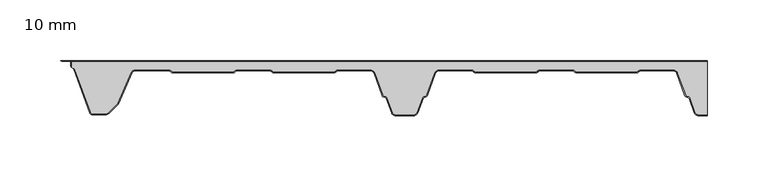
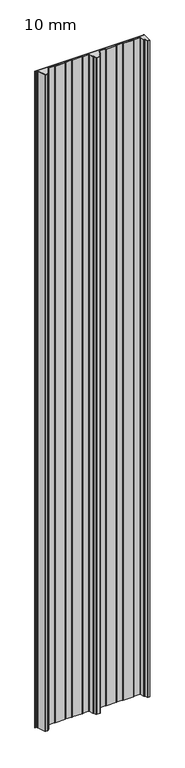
"""IFC4 building model written with IfcOpenShell, lengths in millimetres: plate geometry, HIANSA PANEL - H20.F01.011-PANELES DE CUBIERTA SIN TAPAJUNTA - EASY BOARD 5GR - Panel de Muro Cortina : 10 mm."""

from ifc_helpers import new_model, si_unit, point, frame_2d, origin, origin_with_axes, place, context, project, spatial, polyline, circle_curve, trimmed, segment, composite_curve, outline, extrude, source, transform, mapped, element, save


def plate_10_mm_efb9fa4d(model_context):
    return source(origin(), model_context, "Body", "SweptSolid", [
        extrude(outline(polyline([(-275.2694229, 40.0367133), (-275.7447446, 40.8599946), (-275.7447446, 44.1767187), (-275.2694229, 45.0), (-275.2694229, 40.0367133)])), origin_with_axes(), (0.0, 0.0, 1.0), 3390.8509027),
        extrude(outline(composite_curve([segment(polyline([(-273.4018492, 38.705703), (-272.7092629, 38.2647399), (-259.7811166, 2.7449496)]), True, "CONTINUOUS"), segment(trimmed(circle_curve(frame_2d((-257.431885, 3.6)), 2.5), [point((-259.7811166, 2.7449496))], [point((-257.431885, 1.1))], True, "CARTESIAN"), True, "CONTINUOUS"), segment(polyline([(-257.431885, 1.1), (-247.447117, 1.1)]), True, "CONTINUOUS"), segment(trimmed(circle_curve(frame_2d((-247.447117, 5.6)), 4.5), [point((-247.447117, 1.1))], [point((-244.2651365, 2.4180195))], True, "CARTESIAN"), True, "CONTINUOUS"), segment(polyline([(-244.2651365, 2.4180195), (-237.5783555, 9.1048005)]), True, "CONTINUOUS"), segment(trimmed(circle_curve(frame_2d((-240.7603361, 12.286781)), 4.5), [point((-237.5783555, 9.1048005))], [point((-236.6314448, 10.4972958))], True, "CARTESIAN"), True, "CONTINUOUS"), segment(polyline([(-236.6314448, 10.4972958), (-225.8420142, 35.3918218)]), True, "CONTINUOUS"), segment(trimmed(circle_curve(frame_2d((-222.6306543, 34.0)), 3.5), [point((-225.8420142, 35.3918218))], [point((-222.6306543, 37.5))], False, "CARTESIAN"), True, "CONTINUOUS"), segment(polyline([(-222.6306543, 37.5), (-194.7657414, 37.5)]), True, "CONTINUOUS"), segment(trimmed(circle_curve(frame_2d((-194.7657414, 35.0)), 2.5), [point((-194.7657414, 37.5))], [point((-193.2082608, 36.95557))], False, "CARTESIAN"), True, "CONTINUOUS"), segment(polyline([(-193.2082608, 36.95557), (-192.5534596, 36.3347606)]), True, "CONTINUOUS"), segment(trimmed(circle_curve(frame_2d((-191.6088872, 37.5)), 1.5), [point((-192.5534596, 36.3347606))], [point((-191.6088872, 36.0))], True, "CARTESIAN"), True, "CONTINUOUS"), segment(polyline([(-191.6088872, 36.0), (-141.6076538, 36.0)]), True, "CONTINUOUS"), segment(trimmed(circle_curve(frame_2d((-141.6076538, 37.5)), 1.5), [point((-141.6076538, 36.0))], [point((-140.6630813, 36.3347606))], True, "CARTESIAN"), True, "CONTINUOUS"), segment(polyline([(-140.6630813, 36.3347606), (-140.0082802, 36.95557)]), True, "CONTINUOUS"), segment(trimmed(circle_curve(frame_2d((-138.4507995, 35.0)), 2.5), [point((-140.0082802, 36.95557))], [point((-138.4507995, 37.5))], False, "CARTESIAN"), True, "CONTINUOUS"), segment(polyline([(-138.4507995, 37.5), (-111.4324081, 37.5)]), True, "CONTINUOUS"), segment(trimmed(circle_curve(frame_2d((-111.4324081, 35.0)), 2.5), [point((-111.4324081, 37.5))], [point((-109.8749275, 36.95557))], False, "CARTESIAN"), True, "CONTINUOUS"), segment(polyline([(-109.8749275, 36.95557), (-109.2201263, 36.3347606)]), True, "CONTINUOUS"), segment(trimmed(circle_curve(frame_2d((-108.2755538, 37.5)), 1.5), [point((-109.2201263, 36.3347606))], [point((-108.2755538, 36.0))], True, "CARTESIAN"), True, "CONTINUOUS"), segment(polyline([(-108.2755538, 36.0), (-58.2743205, 36.0)]), True, "CONTINUOUS"), segment(trimmed(circle_curve(frame_2d((-58.2743205, 37.5)), 1.5), [point((-58.2743205, 36.0))], [point((-57.329748, 36.3347606))], True, "CARTESIAN"), True, "CONTINUOUS"), segment(polyline([(-57.329748, 36.3347606), (-56.6749468, 36.95557)]), True, "CONTINUOUS"), segment(trimmed(circle_curve(frame_2d((-55.1174662, 35.0)), 2.5), [point((-56.6749468, 36.95557))], [point((-55.1174662, 37.5))], False, "CARTESIAN"), True, "CONTINUOUS"), segment(polyline([(-55.1174662, 37.5), (-28.1575131, 37.5)]), True, "CONTINUOUS"), segment(trimmed(circle_curve(frame_2d((-28.1575131, 34.0)), 3.5), [point((-28.1575131, 37.5))], [point((-24.868589, 35.1970706))], False, "CARTESIAN"), True, "CONTINUOUS"), segment(polyline([(-24.868589, 35.1970706), (-18.1503603, 16.7388909)]), True, "CONTINUOUS"), segment(trimmed(circle_curve(frame_2d((-17.1166984, 17.1151131)), 1.1), [point((-18.1503603, 16.7388909))], [point((-17.4929206, 16.0814512))], True, "CARTESIAN"), True, "CONTINUOUS"), segment(polyline([(-17.4929206, 16.0814512), (-15.6468567, 15.4095389)]), True, "CONTINUOUS"), segment(trimmed(circle_curve(frame_2d((-16.1598869, 14.0)), 1.5), [point((-15.6468567, 15.4095389))], [point((-14.750348, 14.5130302))], False, "CARTESIAN"), True, "CONTINUOUS"), segment(polyline([(-14.750348, 14.5130302), (-10.3924259, 2.5397376)]), True, "CONTINUOUS"), segment(trimmed(circle_curve(frame_2d((-7.4793787, 3.6)), 3.1), [point((-10.3924259, 2.5397376))], [point((-7.4793787, 0.5))], True, "CARTESIAN"), True, "CONTINUOUS"), segment(polyline([(-7.4793787, 0.5), (7.479295, 0.5)]), True, "CONTINUOUS"), segment(trimmed(circle_curve(frame_2d((7.479295, 3.6)), 3.1), [point((7.479295, 0.5))], [point((10.3923421, 2.5397376))], True, "CARTESIAN"), True, "CONTINUOUS"), segment(polyline([(10.3923421, 2.5397376), (14.7502643, 14.5130302)]), True, "CONTINUOUS"), segment(trimmed(circle_curve(frame_2d((16.1598032, 14.0)), 1.5), [point((14.7502643, 14.5130302))], [point((15.646773, 15.4095389))], False, "CARTESIAN"), True, "CONTINUOUS"), segment(polyline([(15.646773, 15.4095389), (17.4928368, 16.0814512)]), True, "CONTINUOUS"), segment(trimmed(circle_curve(frame_2d((17.1166147, 17.1151131)), 1.1), [point((17.4928368, 16.0814512))], [point((18.1502766, 16.7388909))], True, "CARTESIAN"), True, "CONTINUOUS"), segment(polyline([(18.1502766, 16.7388909), (24.8685053, 35.1970706)]), True, "CONTINUOUS"), segment(trimmed(circle_curve(frame_2d((28.1574294, 34.0)), 3.5), [point((24.8685053, 35.1970706))], [point((28.1574294, 37.5))], False, "CARTESIAN"), True, "CONTINUOUS"), segment(polyline([(28.1574294, 37.5), (55.2342586, 37.5)]), True, "CONTINUOUS"), segment(trimmed(circle_curve(frame_2d((55.2342586, 35.0)), 2.5), [point((55.2342586, 37.5))], [point((56.7917392, 36.95557))], False, "CARTESIAN"), True, "CONTINUOUS"), segment(polyline([(56.7917392, 36.95557), (57.4465404, 36.3347606)]), True, "CONTINUOUS"), segment(trimmed(circle_curve(frame_2d((58.3911128, 37.5)), 1.5), [point((57.4465404, 36.3347606))], [point((58.3911128, 36.0))], True, "CARTESIAN"), True, "CONTINUOUS"), segment(polyline([(58.3911128, 36.0), (108.3923462, 36.0)]), True, "CONTINUOUS"), segment(trimmed(circle_curve(frame_2d((108.3923462, 37.5)), 1.5), [point((108.3923462, 36.0))], [point((109.3369187, 36.3347606))], True, "CARTESIAN"), True, "CONTINUOUS"), segment(polyline([(109.3369187, 36.3347606), (109.9917198, 36.95557)]), True, "CONTINUOUS"), segment(trimmed(circle_curve(frame_2d((111.5492005, 35.0)), 2.5), [point((109.9917198, 36.95557))], [point((111.5492005, 37.5))], False, "CARTESIAN"), True, "CONTINUOUS"), segment(polyline([(111.5492005, 37.5), (138.5675919, 37.5)]), True, "CONTINUOUS"), segment(trimmed(circle_curve(frame_2d((138.5675919, 35.0)), 2.5), [point((138.5675919, 37.5))], [point((140.1250725, 36.95557))], False, "CARTESIAN"), True, "CONTINUOUS"), segment(polyline([(140.1250725, 36.95557), (140.7798737, 36.3347606)]), True, "CONTINUOUS"), segment(trimmed(circle_curve(frame_2d((141.7244462, 37.5)), 1.5), [point((140.7798737, 36.3347606))], [point((141.7244462, 36.0))], True, "CARTESIAN"), True, "CONTINUOUS"), segment(polyline([(141.7244462, 36.0), (191.7256795, 36.0)]), True, "CONTINUOUS"), segment(trimmed(circle_curve(frame_2d((191.7256795, 37.5)), 1.5), [point((191.7256795, 36.0))], [point((192.670252, 36.3347606))], True, "CARTESIAN"), True, "CONTINUOUS"), segment(polyline([(192.670252, 36.3347606), (193.3250532, 36.95557)]), True, "CONTINUOUS"), segment(trimmed(circle_curve(frame_2d((194.8825338, 35.0)), 2.5), [point((193.3250532, 36.95557))], [point((194.8825338, 37.5))], False, "CARTESIAN"), True, "CONTINUOUS"), segment(polyline([(194.8825338, 37.5), (221.9009249, 37.5)]), True, "CONTINUOUS"), segment(trimmed(circle_curve(frame_2d((221.9009249, 34.0)), 3.5), [point((221.9009249, 37.5))], [point((225.189849, 35.1970706))], False, "CARTESIAN"), True, "CONTINUOUS"), segment(polyline([(225.189849, 35.1970706), (231.9080778, 16.7388909)]), True, "CONTINUOUS"), segment(trimmed(circle_curve(frame_2d((232.9417396, 17.1151131)), 1.1), [point((231.9080778, 16.7388909))], [point((232.5655175, 16.0814512))], True, "CARTESIAN"), True, "CONTINUOUS"), segment(polyline([(232.5655175, 16.0814512), (234.4115813, 15.4095389)]), True, "CONTINUOUS"), segment(trimmed(circle_curve(frame_2d((233.8985511, 14.0)), 1.5), [point((234.4115813, 15.4095389))], [point((235.30809, 14.5130302))], False, "CARTESIAN"), True, "CONTINUOUS"), segment(polyline([(235.30809, 14.5130302), (239.6660122, 2.5397376)]), True, "CONTINUOUS"), segment(trimmed(circle_curve(frame_2d((242.5790593, 3.6)), 3.1), [point((239.6660122, 2.5397376))], [point((242.5790593, 0.5))], True, "CARTESIAN"), True, "CONTINUOUS"), segment(polyline([(242.5790593, 0.5), (249.9999998, 0.5), (249.9999998, 0.0), (242.5790593, 0.0)]), True, "CONTINUOUS"), segment(trimmed(circle_curve(frame_2d((242.5790593, 3.6)), 3.6), [point((242.5790593, 0.0))], [point((239.1961659, 2.3687275))], False, "CARTESIAN"), True, "CONTINUOUS"), segment(polyline([(239.1961659, 2.3687275), (234.8382437, 14.3420201)]), True, "CONTINUOUS"), segment(trimmed(circle_curve(frame_2d((233.8985511, 14.0)), 1.0), [point((234.8382437, 14.3420201))], [point((234.2405712, 14.9396926))], True, "CARTESIAN"), True, "CONTINUOUS"), segment(polyline([(234.2405712, 14.9396926), (232.3945074, 15.6116049)]), True, "CONTINUOUS"), segment(trimmed(circle_curve(frame_2d((232.9417396, 17.1151131)), 1.6), [point((232.3945074, 15.6116049))], [point((231.4382315, 16.5678808))], False, "CARTESIAN"), True, "CONTINUOUS"), segment(polyline([(231.4382315, 16.5678808), (224.7200027, 35.0260605)]), True, "CONTINUOUS"), segment(trimmed(circle_curve(frame_2d((221.9009249, 34.0)), 3.0), [point((224.7200027, 35.0260605))], [point((221.9009249, 37.0))], True, "CARTESIAN"), True, "CONTINUOUS"), segment(polyline([(221.9009249, 37.0), (194.8825338, 37.0)]), True, "CONTINUOUS"), segment(trimmed(circle_curve(frame_2d((194.8825338, 35.0)), 2.0), [point((194.8825338, 37.0))], [point((193.6525419, 36.5770606))], True, "CARTESIAN"), True, "CONTINUOUS"), segment(polyline([(193.6525419, 36.5770606), (193.001194, 35.9595251)]), True, "CONTINUOUS"), segment(trimmed(circle_curve(frame_2d((191.7256795, 37.5)), 2.0), [point((193.001194, 35.9595251))], [point((191.7256795, 35.5))], False, "CARTESIAN"), True, "CONTINUOUS"), segment(polyline([(191.7256795, 35.5), (141.7244462, 35.5)]), True, "CONTINUOUS"), segment(trimmed(circle_curve(frame_2d((141.7244462, 37.5)), 2.0), [point((141.7244462, 35.5))], [point((140.4489317, 35.9595251))], False, "CARTESIAN"), True, "CONTINUOUS"), segment(polyline([(140.4489317, 35.9595251), (139.7975838, 36.5770606)]), True, "CONTINUOUS"), segment(trimmed(circle_curve(frame_2d((138.5675919, 35.0)), 2.0), [point((139.7975838, 36.5770606))], [point((138.5675919, 37.0))], True, "CARTESIAN"), True, "CONTINUOUS"), segment(polyline([(138.5675919, 37.0), (111.5492005, 37.0)]), True, "CONTINUOUS"), segment(trimmed(circle_curve(frame_2d((111.5492005, 35.0)), 2.0), [point((111.5492005, 37.0))], [point((110.3192086, 36.5770606))], True, "CARTESIAN"), True, "CONTINUOUS"), segment(polyline([(110.3192086, 36.5770606), (109.6678607, 35.9595251)]), True, "CONTINUOUS"), segment(trimmed(circle_curve(frame_2d((108.3923462, 37.5)), 2.0), [point((109.6678607, 35.9595251))], [point((108.3923462, 35.5))], False, "CARTESIAN"), True, "CONTINUOUS"), segment(polyline([(108.3923462, 35.5), (58.3911128, 35.5)]), True, "CONTINUOUS"), segment(trimmed(circle_curve(frame_2d((58.3911128, 37.5)), 2.0), [point((58.3911128, 35.5))], [point((57.1155983, 35.9595251))], False, "CARTESIAN"), True, "CONTINUOUS"), segment(polyline([(57.1155983, 35.9595251), (56.4642504, 36.5770606)]), True, "CONTINUOUS"), segment(trimmed(circle_curve(frame_2d((55.2342586, 35.0)), 2.0), [point((56.4642504, 36.5770606))], [point((55.2342586, 37.0))], True, "CARTESIAN"), True, "CONTINUOUS"), segment(polyline([(55.2342586, 37.0), (28.1574294, 37.0)]), True, "CONTINUOUS"), segment(trimmed(circle_curve(frame_2d((28.1574294, 34.0)), 3.0), [point((28.1574294, 37.0))], [point((25.3383516, 35.0260605))], True, "CARTESIAN"), True, "CONTINUOUS"), segment(polyline([(25.3383516, 35.0260605), (18.6201229, 16.5678808)]), True, "CONTINUOUS"), segment(trimmed(circle_curve(frame_2d((17.1166147, 17.1151131)), 1.6), [point((18.6201229, 16.5678808))], [point((17.6638469, 15.6116049))], False, "CARTESIAN"), True, "CONTINUOUS"), segment(polyline([(17.6638469, 15.6116049), (15.8177831, 14.9396926)]), True, "CONTINUOUS"), segment(trimmed(circle_curve(frame_2d((16.1598032, 14.0)), 1.0), [point((15.8177831, 14.9396926))], [point((15.2201106, 14.3420201))], True, "CARTESIAN"), True, "CONTINUOUS"), segment(polyline([(15.2201106, 14.3420201), (10.8621885, 2.3687275)]), True, "CONTINUOUS"), segment(trimmed(circle_curve(frame_2d((7.479295, 3.6)), 3.6), [point((10.8621885, 2.3687275))], [point((7.479295, 0.0))], False, "CARTESIAN"), True, "CONTINUOUS"), segment(polyline([(7.479295, 0.0), (-7.4793787, 0.0)]), True, "CONTINUOUS"), segment(trimmed(circle_curve(frame_2d((-7.4793787, 3.6)), 3.6), [point((-7.4793787, 0.0))], [point((-10.8622722, 2.3687275))], False, "CARTESIAN"), True, "CONTINUOUS"), segment(polyline([(-10.8622722, 2.3687275), (-15.2201943, 14.3420201)]), True, "CONTINUOUS"), segment(trimmed(circle_curve(frame_2d((-16.1598869, 14.0)), 1.0), [point((-15.2201943, 14.3420201))], [point((-15.8178668, 14.9396926))], True, "CARTESIAN"), True, "CONTINUOUS"), segment(polyline([(-15.8178668, 14.9396926), (-17.6639306, 15.6116049)]), True, "CONTINUOUS"), segment(trimmed(circle_curve(frame_2d((-17.1166984, 17.1151131)), 1.6), [point((-17.6639306, 15.6116049))], [point((-18.6202066, 16.5678808))], False, "CARTESIAN"), True, "CONTINUOUS"), segment(polyline([(-18.6202066, 16.5678808), (-25.3384353, 35.0260605)]), True, "CONTINUOUS"), segment(trimmed(circle_curve(frame_2d((-28.1575131, 34.0)), 3.0), [point((-25.3384353, 35.0260605))], [point((-28.1575131, 37.0))], True, "CARTESIAN"), True, "CONTINUOUS"), segment(polyline([(-28.1575131, 37.0), (-55.1174662, 37.0)]), True, "CONTINUOUS"), segment(trimmed(circle_curve(frame_2d((-55.1174662, 35.0)), 2.0), [point((-55.1174662, 37.0))], [point((-56.3474581, 36.5770606))], True, "CARTESIAN"), True, "CONTINUOUS"), segment(polyline([(-56.3474581, 36.5770606), (-56.998806, 35.9595251)]), True, "CONTINUOUS"), segment(trimmed(circle_curve(frame_2d((-58.2743205, 37.5)), 2.0), [point((-56.998806, 35.9595251))], [point((-58.2743205, 35.5))], False, "CARTESIAN"), True, "CONTINUOUS"), segment(polyline([(-58.2743205, 35.5), (-108.2755538, 35.5)]), True, "CONTINUOUS"), segment(trimmed(circle_curve(frame_2d((-108.2755538, 37.5)), 2.0), [point((-108.2755538, 35.5))], [point((-109.5510683, 35.9595251))], False, "CARTESIAN"), True, "CONTINUOUS"), segment(polyline([(-109.5510683, 35.9595251), (-110.2024162, 36.5770606)]), True, "CONTINUOUS"), segment(trimmed(circle_curve(frame_2d((-111.4324081, 35.0)), 2.0), [point((-110.2024162, 36.5770606))], [point((-111.4324081, 37.0))], True, "CARTESIAN"), True, "CONTINUOUS"), segment(polyline([(-111.4324081, 37.0), (-138.4507995, 37.0)]), True, "CONTINUOUS"), segment(trimmed(circle_curve(frame_2d((-138.4507995, 35.0)), 2.0), [point((-138.4507995, 37.0))], [point((-139.6807914, 36.5770606))], True, "CARTESIAN"), True, "CONTINUOUS"), segment(polyline([(-139.6807914, 36.5770606), (-140.3321393, 35.9595251)]), True, "CONTINUOUS"), segment(trimmed(circle_curve(frame_2d((-141.6076538, 37.5)), 2.0), [point((-140.3321393, 35.9595251))], [point((-141.6076538, 35.5))], False, "CARTESIAN"), True, "CONTINUOUS"), segment(polyline([(-141.6076538, 35.5), (-191.6088872, 35.5)]), True, "CONTINUOUS"), segment(trimmed(circle_curve(frame_2d((-191.6088872, 37.5)), 2.0), [point((-191.6088872, 35.5))], [point((-192.8844017, 35.9595251))], False, "CARTESIAN"), True, "CONTINUOUS"), segment(polyline([(-192.8844017, 35.9595251), (-193.5357496, 36.5770606)]), True, "CONTINUOUS"), segment(trimmed(circle_curve(frame_2d((-194.7657414, 35.0)), 2.0), [point((-193.5357496, 36.5770606))], [point((-194.7657414, 37.0))], True, "CARTESIAN"), True, "CONTINUOUS"), segment(polyline([(-194.7657414, 37.0), (-222.6306543, 37.0)]), True, "CONTINUOUS"), segment(trimmed(circle_curve(frame_2d((-222.6306543, 34.0)), 3.0), [point((-222.6306543, 37.0))], [point((-225.3832485, 35.1929901))], True, "CARTESIAN"), True, "CONTINUOUS"), segment(polyline([(-225.3832485, 35.1929901), (-236.1726791, 10.2984641)]), True, "CONTINUOUS"), segment(trimmed(circle_curve(frame_2d((-240.7603361, 12.286781)), 5.0), [point((-236.1726791, 10.2984641))], [point((-237.2248022, 8.7512471))], False, "CARTESIAN"), True, "CONTINUOUS"), segment(polyline([(-237.2248022, 8.7512471), (-243.9115831, 2.0644661)]), True, "CONTINUOUS"), segment(trimmed(circle_curve(frame_2d((-247.447117, 5.6)), 5.0), [point((-243.9115831, 2.0644661))], [point((-247.447117, 0.6))], False, "CARTESIAN"), True, "CONTINUOUS"), segment(polyline([(-247.447117, 0.6), (-257.431885, 0.6)]), True, "CONTINUOUS"), segment(trimmed(circle_curve(frame_2d((-257.431885, 3.6)), 3.0), [point((-257.431885, 0.6))], [point((-260.2509629, 2.5739396))], False, "CARTESIAN"), True, "CONTINUOUS"), segment(polyline([(-260.2509629, 2.5739396), (-273.4018492, 38.705703)]), True, "CONTINUOUS")], self_intersect=False)), origin_with_axes(), (0.0, 0.0, 1.0), 3390.8509027),
        extrude(outline(polyline([(-283.3123455, 45.0), (-284.1783709, 45.5), (249.9999998, 45.5), (249.9999998, 45.0), (-283.3123455, 45.0)])), origin_with_axes(), (0.0, 0.0, 1.0), 3390.8509027),
        extrude(outline(composite_curve([segment(polyline([(-272.6618872, 38.1345762), (-273.4018492, 38.605703), (-275.2694229, 40.0367544), (-275.2694229, 45.0), (249.9999998, 45.0), (249.9999998, 0.5), (242.5790593, 0.5)]), True, "CONTINUOUS"), segment(trimmed(circle_curve(frame_2d((242.5790593, 3.6)), 3.1), [point((242.5790593, 0.5))], [point((239.6660122, 2.5397376))], False, "CARTESIAN"), True, "CONTINUOUS"), segment(polyline([(239.6660122, 2.5397376), (235.30809, 14.5130302)]), True, "CONTINUOUS"), segment(trimmed(circle_curve(frame_2d((233.8985511, 14.0)), 1.5), [point((235.30809, 14.5130302))], [point((234.4115813, 15.4095389))], True, "CARTESIAN"), True, "CONTINUOUS"), segment(polyline([(234.4115813, 15.4095389), (232.5655175, 16.0814512)]), True, "CONTINUOUS"), segment(trimmed(circle_curve(frame_2d((232.9417396, 17.1151131)), 1.1), [point((232.5655175, 16.0814512))], [point((231.9080778, 16.7388909))], False, "CARTESIAN"), True, "CONTINUOUS"), segment(polyline([(231.9080778, 16.7388909), (225.189849, 35.1970706)]), True, "CONTINUOUS"), segment(trimmed(circle_curve(frame_2d((221.9009249, 34.0)), 3.5), [point((225.189849, 35.1970706))], [point((221.9009249, 37.5))], True, "CARTESIAN"), True, "CONTINUOUS"), segment(polyline([(221.9009249, 37.5), (194.8825338, 37.5)]), True, "CONTINUOUS"), segment(trimmed(circle_curve(frame_2d((194.8825338, 35.0)), 2.5), [point((194.8825338, 37.5))], [point((193.3250532, 36.95557))], True, "CARTESIAN"), True, "CONTINUOUS"), segment(polyline([(193.3250532, 36.95557), (192.670252, 36.3347606)]), True, "CONTINUOUS"), segment(trimmed(circle_curve(frame_2d((191.7256795, 37.5)), 1.5), [point((192.670252, 36.3347606))], [point((191.7256795, 36.0))], False, "CARTESIAN"), True, "CONTINUOUS"), segment(polyline([(191.7256795, 36.0), (141.7244462, 36.0)]), True, "CONTINUOUS"), segment(trimmed(circle_curve(frame_2d((141.7244462, 37.5)), 1.5), [point((141.7244462, 36.0))], [point((140.7798737, 36.3347606))], False, "CARTESIAN"), True, "CONTINUOUS"), segment(polyline([(140.7798737, 36.3347606), (140.1250725, 36.95557)]), True, "CONTINUOUS"), segment(trimmed(circle_curve(frame_2d((138.5675919, 35.0)), 2.5), [point((140.1250725, 36.95557))], [point((138.5675919, 37.5))], True, "CARTESIAN"), True, "CONTINUOUS"), segment(polyline([(138.5675919, 37.5), (111.5492005, 37.5)]), True, "CONTINUOUS"), segment(trimmed(circle_curve(frame_2d((111.5492005, 35.0)), 2.5), [point((111.5492005, 37.5))], [point((109.9917198, 36.95557))], True, "CARTESIAN"), True, "CONTINUOUS"), segment(polyline([(109.9917198, 36.95557), (109.3369187, 36.3347606)]), True, "CONTINUOUS"), segment(trimmed(circle_curve(frame_2d((108.3923462, 37.5)), 1.5), [point((109.3369187, 36.3347606))], [point((108.3923462, 36.0))], False, "CARTESIAN"), True, "CONTINUOUS"), segment(polyline([(108.3923462, 36.0), (58.3911128, 36.0)]), True, "CONTINUOUS"), segment(trimmed(circle_curve(frame_2d((58.3911128, 37.5)), 1.5), [point((58.3911128, 36.0))], [point((57.4465404, 36.3347606))], False, "CARTESIAN"), True, "CONTINUOUS"), segment(polyline([(57.4465404, 36.3347606), (56.7917392, 36.95557)]), True, "CONTINUOUS"), segment(trimmed(circle_curve(frame_2d((55.2342586, 35.0)), 2.5), [point((56.7917392, 36.95557))], [point((55.2342586, 37.5))], True, "CARTESIAN"), True, "CONTINUOUS"), segment(polyline([(55.2342586, 37.5), (28.1574294, 37.5)]), True, "CONTINUOUS"), segment(trimmed(circle_curve(frame_2d((28.1574294, 34.0)), 3.5), [point((28.1574294, 37.5))], [point((24.8685053, 35.1970706))], True, "CARTESIAN"), True, "CONTINUOUS"), segment(polyline([(24.8685053, 35.1970706), (18.1502766, 16.7388909)]), True, "CONTINUOUS"), segment(trimmed(circle_curve(frame_2d((17.1166147, 17.1151131)), 1.1), [point((18.1502766, 16.7388909))], [point((17.4928368, 16.0814512))], False, "CARTESIAN"), True, "CONTINUOUS"), segment(polyline([(17.4928368, 16.0814512), (15.646773, 15.4095389)]), True, "CONTINUOUS"), segment(trimmed(circle_curve(frame_2d((16.1598032, 14.0)), 1.5), [point((15.646773, 15.4095389))], [point((14.7502643, 14.5130302))], True, "CARTESIAN"), True, "CONTINUOUS"), segment(polyline([(14.7502643, 14.5130302), (10.3923421, 2.5397376)]), True, "CONTINUOUS"), segment(trimmed(circle_curve(frame_2d((7.479295, 3.6)), 3.1), [point((10.3923421, 2.5397376))], [point((7.479295, 0.5))], False, "CARTESIAN"), True, "CONTINUOUS"), segment(polyline([(7.479295, 0.5), (-7.4793787, 0.5)]), True, "CONTINUOUS"), segment(trimmed(circle_curve(frame_2d((-7.4793787, 3.6)), 3.1), [point((-7.4793787, 0.5))], [point((-10.3924259, 2.5397376))], False, "CARTESIAN"), True, "CONTINUOUS"), segment(polyline([(-10.3924259, 2.5397376), (-14.750348, 14.5130302)]), True, "CONTINUOUS"), segment(trimmed(circle_curve(frame_2d((-16.1598869, 14.0)), 1.5), [point((-14.750348, 14.5130302))], [point((-15.6468567, 15.4095389))], True, "CARTESIAN"), True, "CONTINUOUS"), segment(polyline([(-15.6468567, 15.4095389), (-17.4929206, 16.0814512)]), True, "CONTINUOUS"), segment(trimmed(circle_curve(frame_2d((-17.1166984, 17.1151131)), 1.1), [point((-17.4929206, 16.0814512))], [point((-18.1503603, 16.7388909))], False, "CARTESIAN"), True, "CONTINUOUS"), segment(polyline([(-18.1503603, 16.7388909), (-24.868589, 35.1970706)]), True, "CONTINUOUS"), segment(trimmed(circle_curve(frame_2d((-28.1575131, 34.0)), 3.5), [point((-24.868589, 35.1970706))], [point((-28.1575131, 37.5))], True, "CARTESIAN"), True, "CONTINUOUS"), segment(polyline([(-28.1575131, 37.5), (-55.1174662, 37.5)]), True, "CONTINUOUS"), segment(trimmed(circle_curve(frame_2d((-55.1174662, 35.0)), 2.5), [point((-55.1174662, 37.5))], [point((-56.6749468, 36.95557))], True, "CARTESIAN"), True, "CONTINUOUS"), segment(polyline([(-56.6749468, 36.95557), (-57.329748, 36.3347606)]), True, "CONTINUOUS"), segment(trimmed(circle_curve(frame_2d((-58.2743205, 37.5)), 1.5), [point((-57.329748, 36.3347606))], [point((-58.2743205, 36.0))], False, "CARTESIAN"), True, "CONTINUOUS"), segment(polyline([(-58.2743205, 36.0), (-108.2755538, 36.0)]), True, "CONTINUOUS"), segment(trimmed(circle_curve(frame_2d((-108.2755538, 37.5)), 1.5), [point((-108.2755538, 36.0))], [point((-109.2201263, 36.3347606))], False, "CARTESIAN"), True, "CONTINUOUS"), segment(polyline([(-109.2201263, 36.3347606), (-109.8749275, 36.95557)]), True, "CONTINUOUS"), segment(trimmed(circle_curve(frame_2d((-111.4324081, 35.0)), 2.5), [point((-109.8749275, 36.95557))], [point((-111.4324081, 37.5))], True, "CARTESIAN"), True, "CONTINUOUS"), segment(polyline([(-111.4324081, 37.5), (-138.4507995, 37.5)]), True, "CONTINUOUS"), segment(trimmed(circle_curve(frame_2d((-138.4507995, 35.0)), 2.5), [point((-138.4507995, 37.5))], [point((-140.0082802, 36.95557))], True, "CARTESIAN"), True, "CONTINUOUS"), segment(polyline([(-140.0082802, 36.95557), (-140.6630813, 36.3347606)]), True, "CONTINUOUS"), segment(trimmed(circle_curve(frame_2d((-141.6076538, 37.5)), 1.5), [point((-140.6630813, 36.3347606))], [point((-141.6076538, 36.0))], False, "CARTESIAN"), True, "CONTINUOUS"), segment(polyline([(-141.6076538, 36.0), (-191.6088872, 36.0)]), True, "CONTINUOUS"), segment(trimmed(circle_curve(frame_2d((-191.6088872, 37.5)), 1.5), [point((-191.6088872, 36.0))], [point((-192.5534596, 36.3347606))], False, "CARTESIAN"), True, "CONTINUOUS"), segment(polyline([(-192.5534596, 36.3347606), (-193.2082608, 36.95557)]), True, "CONTINUOUS"), segment(trimmed(circle_curve(frame_2d((-194.7657414, 35.0)), 2.5), [point((-193.2082608, 36.95557))], [point((-194.7657414, 37.5))], True, "CARTESIAN"), True, "CONTINUOUS"), segment(polyline([(-194.7657414, 37.5), (-222.6306543, 37.5)]), True, "CONTINUOUS"), segment(trimmed(circle_curve(frame_2d((-222.6306543, 34.0)), 3.5), [point((-222.6306543, 37.5))], [point((-225.8420142, 35.3918218))], True, "CARTESIAN"), True, "CONTINUOUS"), segment(polyline([(-225.8420142, 35.3918218), (-236.6314448, 10.4972958)]), True, "CONTINUOUS"), segment(trimmed(circle_curve(frame_2d((-240.7603361, 12.286781)), 4.5), [point((-236.6314448, 10.4972958))], [point((-237.5783555, 9.1048005))], False, "CARTESIAN"), True, "CONTINUOUS"), segment(polyline([(-237.5783555, 9.1048005), (-244.2651365, 2.4180195)]), True, "CONTINUOUS"), segment(trimmed(circle_curve(frame_2d((-247.447117, 5.6)), 4.5), [point((-244.2651365, 2.4180195))], [point((-247.447117, 1.1))], False, "CARTESIAN"), True, "CONTINUOUS"), segment(polyline([(-247.447117, 1.1), (-257.431885, 1.1)]), True, "CONTINUOUS"), segment(trimmed(circle_curve(frame_2d((-257.431885, 3.6)), 2.5), [point((-257.431885, 1.1))], [point((-259.7811166, 2.7449496))], False, "CARTESIAN"), True, "CONTINUOUS"), segment(polyline([(-259.7811166, 2.7449496), (-272.6618872, 38.1345762)]), True, "CONTINUOUS")], self_intersect=False)), origin_with_axes(), (0.0, 0.0, 1.0), 3390.8509027),
    ])


if __name__ == "__main__":
    model = new_model("IFC4")
    model_context = context("Model", 3, world=origin())
    ifc_project = project(units=[si_unit("LENGTHUNIT", "METRE", prefix="MILLI")], contexts=[model_context])
    site = spatial("IfcSite", under=ifc_project)
    building = spatial("IfcBuilding", under=site)
    placement = place(None, origin())
    plate_10_mm_shape = plate_10_mm_efb9fa4d(model_context)
    element("IfcPlate", 1, ObjectType="HIANSA PANEL - H20.F01.011-PANELES DE CUBIERTA SIN TAPAJUNTA - EASY BOARD 5GR - Panel de Muro Cortina : 10 mm", at=placement, inside=building, context=model_context, shape_type="MappedRepresentation", body=[
        mapped(plate_10_mm_shape, transform((0.0, 0.0, 0.0), x_axis=(1.0, 0.0, 0.0), y_axis=(0.0, 1.0, 0.0), z_axis=(0.0, 0.0, 1.0))),
    ])
    save(model, "model.ifc")
